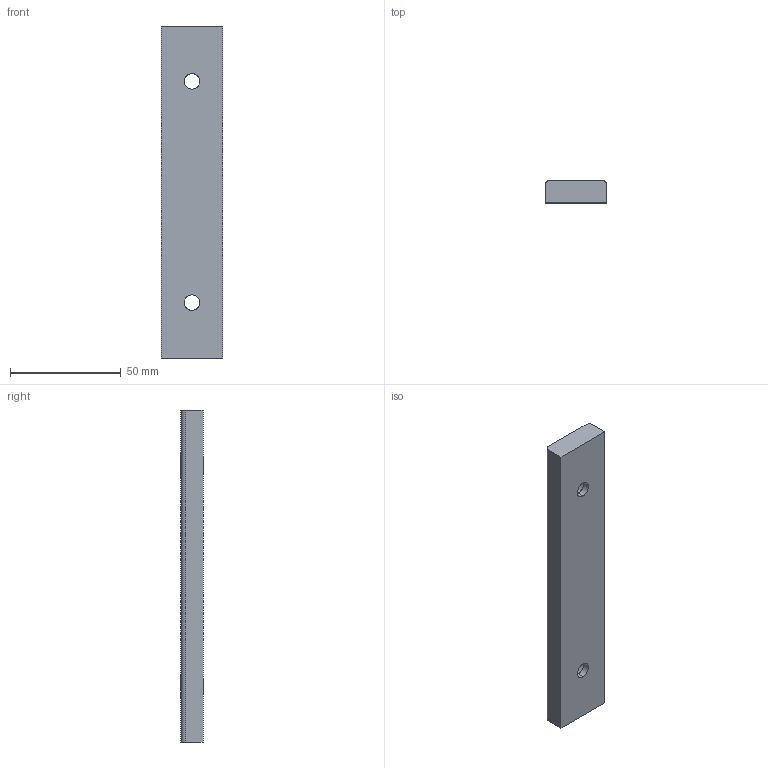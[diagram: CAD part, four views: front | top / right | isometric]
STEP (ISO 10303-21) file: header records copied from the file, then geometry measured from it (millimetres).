
FILE_DESCRIPTION(('CATIA V5 STEP Exchange'),'2;1');
FILE_NAME('C:\Users\Utente\Desktop\3D files A606\A606-028-150.stp','2020-04-13T18:07:26+00:00',('none'),('none'),'CATIA Version 5 Release 20 GA (IN-10)','CATIA V5 STEP AP203','none');
FILE_SCHEMA(('CONFIG_CONTROL_DESIGN'));
Length unit declared in the file: millimetre
Products named in the file (1): Noname
Bounding box: 28 x 10 x 150 mm (x, y, z)
Surface area: 12160.9 mm2 (no closed solid volume)
Topology: 0 solids, 14 shells, 18 faces, 76 edges, 68 vertices
Faces by surface type: cylinder 10, extrusion 8
Entity records: 1044 total; most frequent: CARTESIAN_POINT 415, DIRECTION 84, ORIENTED_EDGE 84, EDGE_CURVE 76, VERTEX_POINT 68, VECTOR 44, LINE 36, AXIS2_PLACEMENT_3D 31
